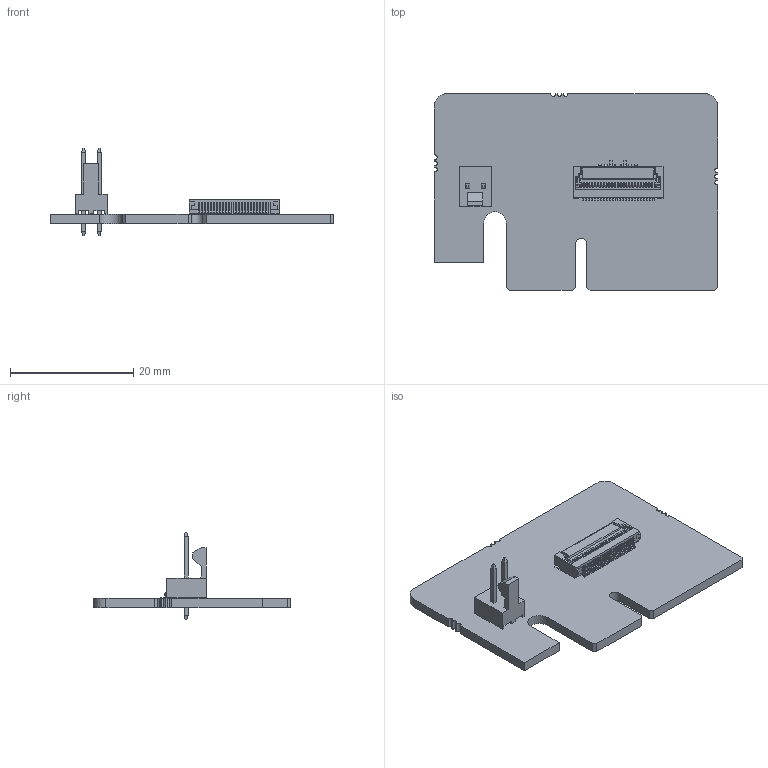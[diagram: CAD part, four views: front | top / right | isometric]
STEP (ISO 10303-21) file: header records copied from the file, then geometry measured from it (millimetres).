
FILE_DESCRIPTION(/* description */ ('step model'),/* implementation_level */ '2;1');
FILE_NAME(/* name */ 'ADPT-MX-X2G2-PCIE-FL.stp',/* time_stamp */ '2017-09-04T14:34:34+02:00',/* author */ ('Spano'),/* organization */ ('Ximea'),/* preprocessor_version */ 'ST-DEVELOPER v16',/* originating_system */ 'SIEMENS PLM Software NX 11.0',/* authorisation */ '');
FILE_SCHEMA (('AUTOMOTIVE_DESIGN { 1 0 10303 214 3 1 1 1 }'));
Length unit declared in the file: millimetre
Products named in the file (1): ADPT-MX-X2G2-PCIE-FL
Bounding box: 45.95 x 31.93 x 14.22 mm (x, y, z)
Volume: 2413.7 mm3; surface area: 3778.9 mm2
Topology: 5 solids, 5 shells, 1585 faces, 5086 edges, 3339 vertices
Faces by surface type: plane 1257, cylinder 328
Entity records: 55763 total; most frequent: ORIENTED_EDGE 10172, CARTESIAN_POINT 10011, DIRECTION 8930, EDGE_CURVE 5086, LINE 4414, VECTOR 4414, VERTEX_POINT 3339, AXIS2_PLACEMENT_3D 2258
